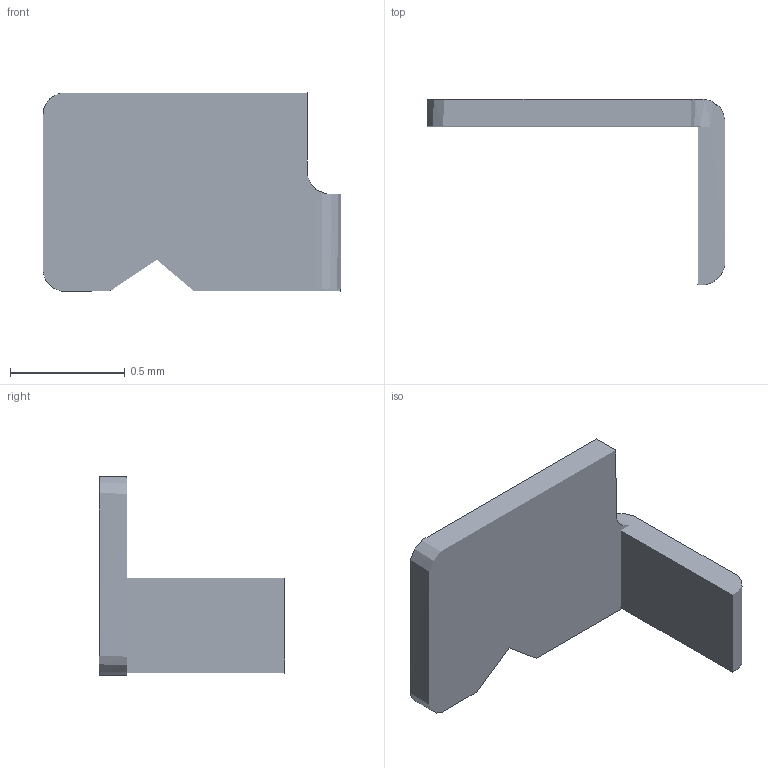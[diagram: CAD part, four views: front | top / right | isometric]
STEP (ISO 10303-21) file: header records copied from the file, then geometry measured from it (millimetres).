
FILE_DESCRIPTION(/* description */ ('STEP AP242 Edition 2','CAx-IF Rec.Pracs.---Representation and Presentation of Product Manufacturing Information (PMI)---4.0---2014-10-13','CAx-IF Rec.Pracs.---3D Tessellated Geometry---0.4---2014-09-14','2;1','CAx-IF Rec.Pracs.---User Defined Attributes---1.5---2016-08-15'),/* implementation_level */ '2;1');
FILE_NAME(/* name */ 'Assembly 1 - Part 31',/* time_stamp */ '2026-03-29T21:14:57Z',/* author */ (''),/* organization */ (''),/* preprocessor_version */ 'ST-DEVELOPER v20',/* originating_system */ 'ONSHAPE BY PTC INC, 1.212',/* authorisation */ ' ');
FILE_SCHEMA (('AP242_MANAGED_MODEL_BASED_3D_ENGINEERING_MIM_LF { 1 0 10303 442 3 1 4 }'));
Length unit declared in the file: metre
Products named in the file (1): Part 31
Bounding box: 1.3 x 0.81 x 0.87 mm (x, y, z)
Surface area: 3.3 mm2 (no closed solid volume)
Topology: 0 solids, 1 shells, 1 faces, 0 edges, 0 vertices
Faces by surface type: other 1
Entity records: 31 total; most frequent: DIRECTION 2, SHAPE_REPRESENTATION_RELATIONSHIP 1, TESSELLATED_SHAPE_REPRESENTATION 1, STYLED_ITEM 1, PRESENTATION_STYLE_ASSIGNMENT 1, SURFACE_STYLE_USAGE 1, SURFACE_SIDE_STYLE 1, SURFACE_STYLE_FILL_AREA 1
